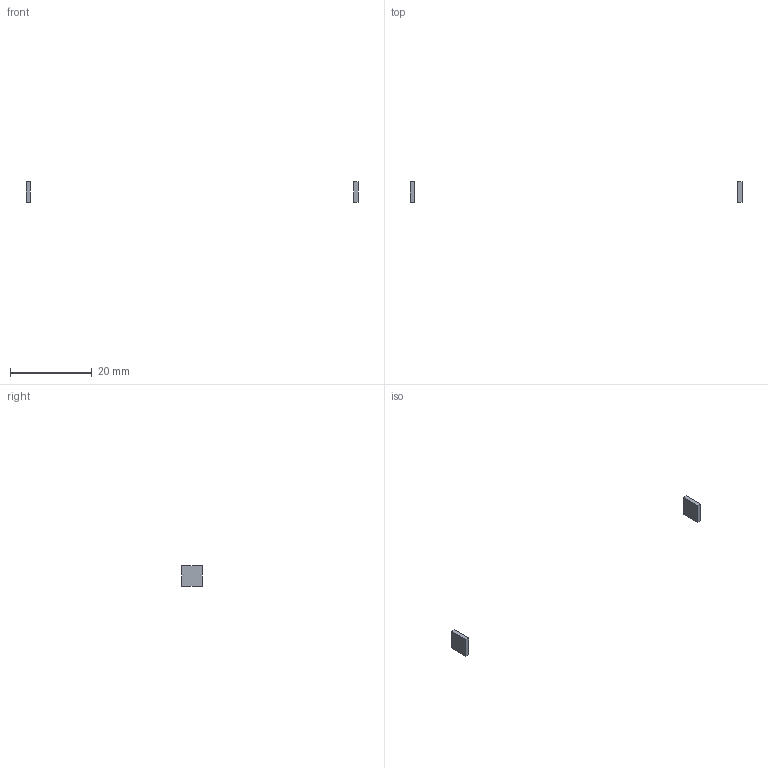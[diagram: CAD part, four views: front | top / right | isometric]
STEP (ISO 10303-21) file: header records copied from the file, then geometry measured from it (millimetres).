
FILE_DESCRIPTION(('Open CASCADE Model'),'2;1');
FILE_NAME('pt1000','2026-08-12T02:42:46',('Author'),('Open CASCADE'), 'Open CASCADE STEP processor 7.9','build123d','Unknown');
FILE_SCHEMA(('AUTOMOTIVE_DESIGN { 1 0 10303 214 1 1 1 1 }'));
Length unit declared in the file: millimetre
Products named in the file (3): pt1000; COMPOUND
Assembly tree (2 placements, depth 2):
  pt1000
    COMPOUND
    COMPOUND
Bounding box: 81 x 5 x 5 mm (x, y, z)
Volume: 50 mm3; surface area: 140 mm2
Topology: 2 solids, 2 shells, 12 faces, 24 edges, 16 vertices
Faces by surface type: plane 12
Entity records: 664 total; most frequent: CARTESIAN_POINT 103, DIRECTION 102, LINE 72, VECTOR 72, ORIENTED_EDGE 48, PCURVE 48, DEFINITIONAL_REPRESENTATION 48, EDGE_CURVE 24
